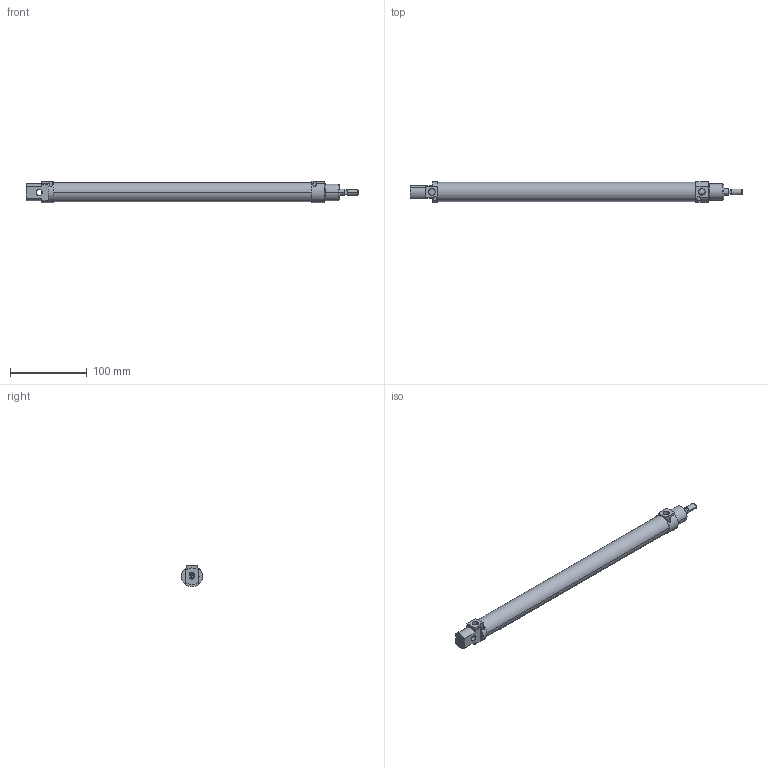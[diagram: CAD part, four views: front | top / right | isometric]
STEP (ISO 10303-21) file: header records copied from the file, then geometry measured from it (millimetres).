
FILE_DESCRIPTION(('CATIA V5 STEP Exchange'),'2;1');
FILE_NAME('D:\stp file for catalog\PSN\20\PSN-20-08-300.stp','2018-04-28T10:13:14+00:00',('none'),('none'),'CATIA Version 5-6 Release 2016','CATIA V5 STEP AP203','none');
FILE_SCHEMA(('CONFIG_CONTROL_DESIGN'));
Length unit declared in the file: millimetre
Products named in the file (1): PSN-20-08-300-00
Assembly tree (2 placements, depth 2):
  PSN-20-08-300-00
    #57
    #5057
Bounding box: 432.25 x 26.99 x 28 mm (x, y, z)
Volume: 111723.6 mm3; surface area: 70342 mm2
Topology: 2 solids, 3 shells, 206 faces, 515 edges, 338 vertices
Faces by surface type: plane 140, cylinder 60, cone 6
Entity records: 5780 total; most frequent: CARTESIAN_POINT 1106, ORIENTED_EDGE 1030, DIRECTION 763, EDGE_CURVE 515, VECTOR 361, LINE 361, VERTEX_POINT 338, AXIS2_PLACEMENT_3D 273
